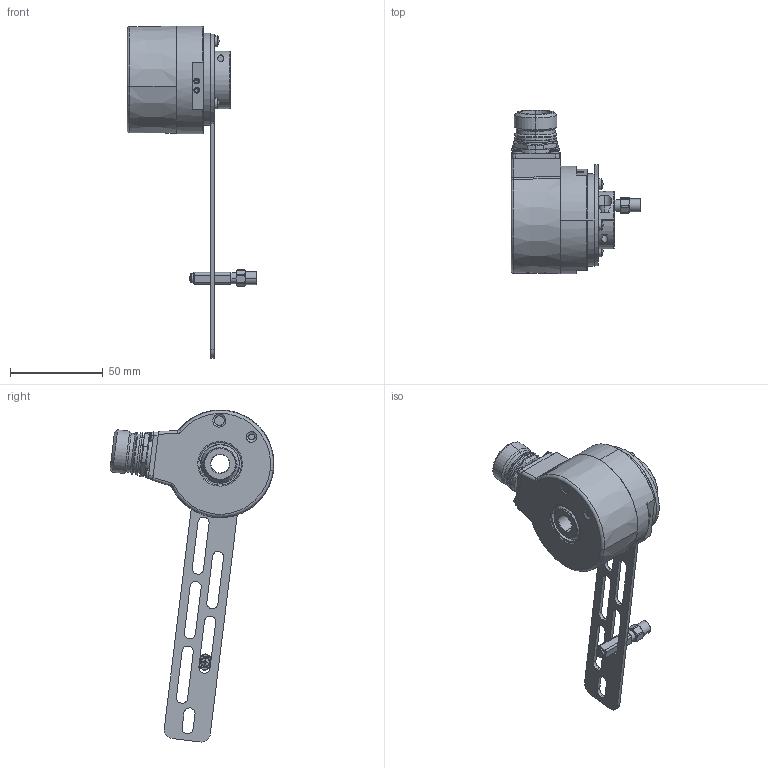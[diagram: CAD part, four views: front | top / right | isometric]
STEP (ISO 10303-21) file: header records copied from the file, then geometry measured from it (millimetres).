
FILE_DESCRIPTION (( 'STEP AP214' ), '1' );
FILE_NAME ('5834SIL.A3X4.XXXX.STEP', '2010-08-13T07:41:58', ( 'admin' ), ( 'Fritz Kübler GmbH' ), 'SwSTEP 2.0', 'SolidWorks 2009', '' );
FILE_SCHEMA (( 'AUTOMOTIVE_DESIGN' ));
Length unit declared in the file: millimetre
Products named in the file (1): 5834SIL.A3X4.XXXX
Bounding box: 70 x 88.28 x 178.83 mm (x, y, z)
Surface area: 34971.7 mm2 (no closed solid volume)
Topology: 0 solids, 44 shells, 496 faces, 1417 edges, 938 vertices
Faces by surface type: cylinder 197, plane 169, cone 72, sphere 34, torus 20, bspline 4
Entity records: 22433 total; most frequent: CARTESIAN_POINT 3756, DIRECTION 3024, ORIENTED_EDGE 2435, EDGE_CURVE 1399, AXIS2_PLACEMENT_3D 1212, VERTEX_POINT 938, CIRCLE 719, VECTOR 600
